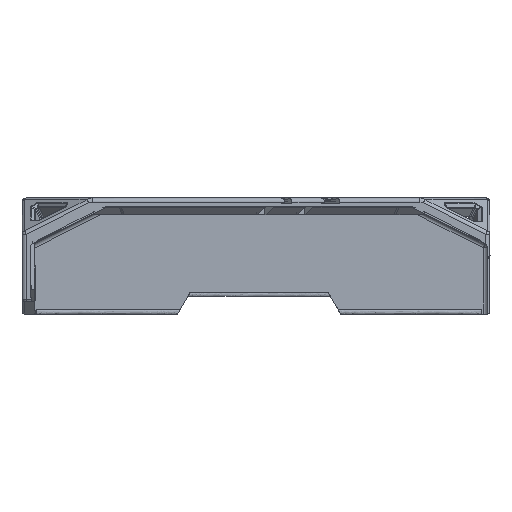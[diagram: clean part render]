
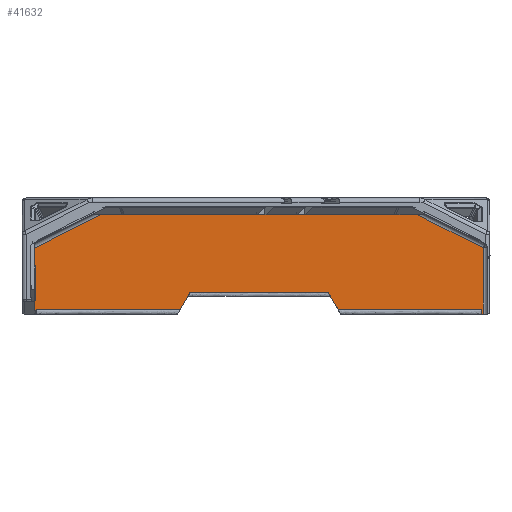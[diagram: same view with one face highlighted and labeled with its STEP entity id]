
A CAD part, left-side view. The second image highlights one B-rep face of the part: STEP entity #41632.
In plain terms, the highlighted planar face has unit normal (-1, 0, 0).
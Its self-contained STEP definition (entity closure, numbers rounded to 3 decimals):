
#26843=DIRECTION('',(0.,0.,1.));
#26844=VECTOR('',#26843,15.972);
#26845=CARTESIAN_POINT('',(256.7,-54.1,-26.));
#26846=LINE('',#26845,#26844);
#27484=CARTESIAN_POINT('',(256.7,8.879,1.6));
#27538=DIRECTION('',(0.,0.,1.));
#27539=VECTOR('',#27538,1.);
#27540=CARTESIAN_POINT('',(256.7,53.7,-26.));
#27541=LINE('',#27540,#27539);
#27542=DIRECTION('',(0.,1.,0.));
#27543=VECTOR('',#27542,0.5);
#27544=CARTESIAN_POINT('',(256.7,53.7,-26.));
#27545=LINE('',#27544,#27543);
#27546=DIRECTION('',(0.,0.894,-0.447));
#27547=VECTOR('',#27546,20.298);
#27548=CARTESIAN_POINT('',(256.7,36.045,-1.));
#27549=LINE('',#27548,#27547);
#27550=DIRECTION('',(0.,-1.,0.));
#27551=VECTOR('',#27550,19.292);
#27552=CARTESIAN_POINT('',(256.7,36.045,-1.));
#27553=LINE('',#27552,#27551);
#27554=DIRECTION('',(0.,0.,1.));
#27555=VECTOR('',#27554,0.9);
#27556=CARTESIAN_POINT('',(256.7,16.753,0.7));
#27557=LINE('',#27556,#27555);
#27558=DIRECTION('',(0.,-1.,0.));
#27559=VECTOR('',#27558,7.875);
#27560=CARTESIAN_POINT('',(256.7,16.753,1.6));
#27561=LINE('',#27560,#27559);
#27562=DIRECTION('',(0.,0.,1.));
#27563=VECTOR('',#27562,0.4);
#27564=CARTESIAN_POINT('',(256.7,8.879,1.2));
#27565=LINE('',#27564,#27563);
#27566=DIRECTION('',(0.,0.,-1.));
#27567=VECTOR('',#27566,2.2);
#27568=CARTESIAN_POINT('',(256.7,13.925,1.2));
#27569=LINE('',#27568,#27567);
#27570=DIRECTION('',(0.,-1.,0.));
#27571=VECTOR('',#27570,6.743);
#27572=CARTESIAN_POINT('',(256.7,13.925,-1.));
#27573=LINE('',#27572,#27571);
#27574=DIRECTION('',(0.,0.,1.));
#27575=VECTOR('',#27574,0.9);
#27576=CARTESIAN_POINT('',(256.7,7.182,0.7));
#27577=LINE('',#27576,#27575);
#27578=DIRECTION('',(0.,-1.,0.));
#27579=VECTOR('',#27578,42.053);
#27580=CARTESIAN_POINT('',(256.7,7.182,1.6));
#27581=LINE('',#27580,#27579);
#27582=DIRECTION('',(0.,0.,-1.));
#27583=VECTOR('',#27582,0.4);
#27584=CARTESIAN_POINT('',(256.7,-34.872,1.6));
#27585=LINE('',#27584,#27583);
#27586=DIRECTION('',(0.,0.,-1.));
#27587=VECTOR('',#27586,2.2);
#27588=CARTESIAN_POINT('',(256.7,4.736,1.2));
#27589=LINE('',#27588,#27587);
#27590=DIRECTION('',(0.,-1.,0.));
#27591=VECTOR('',#27590,40.781);
#27592=CARTESIAN_POINT('',(256.7,4.736,-1.));
#27593=LINE('',#27592,#27591);
#27594=DIRECTION('',(0.,0.894,0.447));
#27595=VECTOR('',#27594,20.186);
#27596=CARTESIAN_POINT('',(256.7,-54.1,-10.028));
#27597=LINE('',#27596,#27595);
#27598=DIRECTION('',(0.,1.,0.));
#27599=VECTOR('',#27598,0.5);
#27600=CARTESIAN_POINT('',(256.7,-54.1,-26.));
#27601=LINE('',#27600,#27599);
#27602=DIRECTION('',(0.,0.,1.));
#27603=VECTOR('',#27602,1.);
#27604=CARTESIAN_POINT('',(256.7,-53.6,-26.));
#27605=LINE('',#27604,#27603);
#27606=DIRECTION('',(0.,-0.5,-0.866));
#27607=VECTOR('',#27606,1.155);
#27608=CARTESIAN_POINT('',(256.7,-16.606,-20.708));
#27609=LINE('',#27608,#27607);
#27610=DIRECTION('',(0.,1.,0.));
#27611=VECTOR('',#27610,33.212);
#27612=CARTESIAN_POINT('',(256.7,-16.606,-20.708));
#27613=LINE('',#27612,#27611);
#27614=DIRECTION('',(0.,-0.5,0.866));
#27615=VECTOR('',#27614,1.155);
#27616=CARTESIAN_POINT('',(256.7,17.183,-21.708));
#27617=LINE('',#27616,#27615);
#27626=DIRECTION('',(0.,0.5,-0.866));
#27627=VECTOR('',#27626,3.801);
#27628=CARTESIAN_POINT('',(256.7,17.183,-21.708));
#27629=LINE('',#27628,#27627);
#27726=CARTESIAN_POINT('',(256.7,-19.085,-25.));
#27734=DIRECTION('',(0.,-1.,0.));
#27735=VECTOR('',#27734,34.515);
#27736=CARTESIAN_POINT('',(256.7,-19.085,-25.));
#27737=LINE('',#27736,#27735);
#27744=CARTESIAN_POINT('',(256.7,19.085,-25.));
#27746=DIRECTION('',(0.,-1.,0.));
#27747=VECTOR('',#27746,34.615);
#27748=CARTESIAN_POINT('',(256.7,53.7,-25.));
#27749=LINE('',#27748,#27747);
#27750=DIRECTION('',(0.,0.5,0.866));
#27751=VECTOR('',#27750,3.801);
#27752=CARTESIAN_POINT('',(256.7,-19.085,-25.));
#27753=LINE('',#27752,#27751);
#28249=DIRECTION('',(0.,0.,-1.));
#28250=VECTOR('',#28249,1.7);
#28251=CARTESIAN_POINT('',(256.7,7.182,0.7));
#28252=LINE('',#28251,#28250);
#28269=CARTESIAN_POINT('',(256.7,7.182,1.6));
#28349=DIRECTION('',(0.,1.,0.));
#28350=VECTOR('',#28349,5.046);
#28351=CARTESIAN_POINT('',(256.7,8.879,1.2));
#28352=LINE('',#28351,#28350);
#28520=DIRECTION('',(0.,1.,0.));
#28521=VECTOR('',#28520,39.608);
#28522=CARTESIAN_POINT('',(256.7,-34.872,1.2));
#28523=LINE('',#28522,#28521);
#30774=DIRECTION('',(0.,0.,-1.));
#30775=VECTOR('',#30774,1.7);
#30776=CARTESIAN_POINT('',(256.7,16.753,0.7));
#30777=LINE('',#30776,#30775);
#30924=CARTESIAN_POINT('',(256.7,16.753,-1.));
#30936=CARTESIAN_POINT('',(256.7,4.736,-1.));
#30948=CARTESIAN_POINT('',(256.7,7.182,-1.));
#30955=CARTESIAN_POINT('',(256.7,13.925,-1.));
#31051=DIRECTION('',(0.,0.,-1.));
#31052=VECTOR('',#31051,15.922);
#31053=CARTESIAN_POINT('',(256.7,54.2,-10.078));
#31054=LINE('',#31053,#31052);
#37065=CARTESIAN_POINT('',(256.7,-54.1,-26.));
#37066=VERTEX_POINT('',#37065);
#37103=CARTESIAN_POINT('',(256.7,36.045,-1.));
#37104=VERTEX_POINT('',#37103);
#37105=CARTESIAN_POINT('',(256.7,54.2,-10.078));
#37106=VERTEX_POINT('',#37105);
#37108=CARTESIAN_POINT('',(256.7,-54.1,-10.028));
#37110=VERTEX_POINT('',#37108);
#37115=CARTESIAN_POINT('',(256.7,-36.045,-1.));
#37116=VERTEX_POINT('',#37115);
#37125=CARTESIAN_POINT('',(256.7,54.2,-26.));
#37126=VERTEX_POINT('',#37125);
#37127=CARTESIAN_POINT('',(256.7,-53.6,-26.));
#37128=CARTESIAN_POINT('',(256.7,-53.6,-25.));
#37129=VERTEX_POINT('',#37127);
#37130=VERTEX_POINT('',#37128);
#37131=CARTESIAN_POINT('',(256.7,53.7,-26.));
#37132=CARTESIAN_POINT('',(256.7,53.7,-25.));
#37133=VERTEX_POINT('',#37131);
#37134=VERTEX_POINT('',#37132);
#37177=CARTESIAN_POINT('',(256.7,-34.872,1.2));
#37179=VERTEX_POINT('',#37177);
#37482=CARTESIAN_POINT('',(256.7,8.879,1.2));
#37483=VERTEX_POINT('',#37482);
#37686=VERTEX_POINT('',#30948);
#37687=VERTEX_POINT('',#30936);
#37688=VERTEX_POINT('',#30924);
#37689=VERTEX_POINT('',#30955);
#37690=CARTESIAN_POINT('',(256.7,4.736,1.2));
#37691=VERTEX_POINT('',#37690);
#37692=CARTESIAN_POINT('',(256.7,13.925,1.2));
#37693=VERTEX_POINT('',#37692);
#37694=CARTESIAN_POINT('',(256.7,7.182,0.7));
#37695=VERTEX_POINT('',#37694);
#37696=CARTESIAN_POINT('',(256.7,16.753,0.7));
#37697=VERTEX_POINT('',#37696);
#38691=VERTEX_POINT('',#28269);
#38695=CARTESIAN_POINT('',(256.7,-34.872,1.6));
#38696=VERTEX_POINT('',#38695);
#38702=VERTEX_POINT('',#27484);
#38703=CARTESIAN_POINT('',(256.7,16.753,1.6));
#38704=VERTEX_POINT('',#38703);
#38736=CARTESIAN_POINT('',(256.7,-17.183,-21.708));
#38737=CARTESIAN_POINT('',(256.7,17.183,-21.708));
#38738=VERTEX_POINT('',#38736);
#38739=VERTEX_POINT('',#38737);
#38740=CARTESIAN_POINT('',(256.7,-16.606,-20.708));
#38741=CARTESIAN_POINT('',(256.7,16.606,-20.708));
#38742=VERTEX_POINT('',#38740);
#38743=VERTEX_POINT('',#38741);
#38745=VERTEX_POINT('',#27744);
#38746=VERTEX_POINT('',#27726);
#41570=CARTESIAN_POINT('',(256.7,-35.,-1.));
#41571=DIRECTION('',(1.,0.,0.));
#41572=DIRECTION('',(0.,1.,0.));
#41573=AXIS2_PLACEMENT_3D('',#41570,#41571,#41572);
#41574=PLANE('',#41573);
#41576=ORIENTED_EDGE('',*,*,#41575,.T.);
#41578=ORIENTED_EDGE('',*,*,#41577,.F.);
#41580=ORIENTED_EDGE('',*,*,#41579,.F.);
#41582=ORIENTED_EDGE('',*,*,#41581,.T.);
#41584=ORIENTED_EDGE('',*,*,#41583,.F.);
#41586=ORIENTED_EDGE('',*,*,#41585,.F.);
#41588=ORIENTED_EDGE('',*,*,#41587,.T.);
#41590=ORIENTED_EDGE('',*,*,#41589,.F.);
#41591=ORIENTED_EDGE('',*,*,#41543,.T.);
#41592=ORIENTED_EDGE('',*,*,#41489,.T.);
#41593=ORIENTED_EDGE('',*,*,#41518,.F.);
#41595=ORIENTED_EDGE('',*,*,#41594,.T.);
#41597=ORIENTED_EDGE('',*,*,#41596,.T.);
#41599=ORIENTED_EDGE('',*,*,#41598,.T.);
#41601=ORIENTED_EDGE('',*,*,#41600,.F.);
#41603=ORIENTED_EDGE('',*,*,#41602,.T.);
#41605=ORIENTED_EDGE('',*,*,#41604,.T.);
#41607=ORIENTED_EDGE('',*,*,#41606,.T.);
#41609=ORIENTED_EDGE('',*,*,#41608,.T.);
#41611=ORIENTED_EDGE('',*,*,#41610,.T.);
#41613=ORIENTED_EDGE('',*,*,#41612,.T.);
#41614=ORIENTED_EDGE('',*,*,#40830,.F.);
#41615=ORIENTED_EDGE('',*,*,#40860,.F.);
#41617=ORIENTED_EDGE('',*,*,#41616,.T.);
#41619=ORIENTED_EDGE('',*,*,#41618,.T.);
#41621=ORIENTED_EDGE('',*,*,#41620,.F.);
#41623=ORIENTED_EDGE('',*,*,#41622,.T.);
#41625=ORIENTED_EDGE('',*,*,#41624,.F.);
#41627=ORIENTED_EDGE('',*,*,#41626,.T.);
#41629=ORIENTED_EDGE('',*,*,#41628,.F.);
#41630=EDGE_LOOP('',(#41576,#41578,#41580,#41582,#41584,#41586,#41588,#41590,
#41591,#41592,#41593,#41595,#41597,#41599,#41601,#41603,#41605,#41607,#41609,
#41611,#41613,#41614,#41615,#41617,#41619,#41621,#41623,#41625,#41627,#41629));
#41631=FACE_OUTER_BOUND('',#41630,.F.);
#41632=ADVANCED_FACE('',(#41631),#41574,.F.);
#40830=EDGE_CURVE('',#37110,#37116,#27597,.T.);
#40860=EDGE_CURVE('',#37066,#37110,#26846,.T.);
#41489=EDGE_CURVE('',#38704,#38702,#27561,.T.);
#41518=EDGE_CURVE('',#37483,#38702,#27565,.T.);
#41543=EDGE_CURVE('',#37697,#38704,#27557,.T.);
#41575=EDGE_CURVE('',#38739,#38745,#27629,.T.);
#41577=EDGE_CURVE('',#37134,#38745,#27749,.T.);
#41579=EDGE_CURVE('',#37133,#37134,#27541,.T.);
#41581=EDGE_CURVE('',#37133,#37126,#27545,.T.);
#41583=EDGE_CURVE('',#37106,#37126,#31054,.T.);
#41585=EDGE_CURVE('',#37104,#37106,#27549,.T.);
#41587=EDGE_CURVE('',#37104,#37688,#27553,.T.);
#41589=EDGE_CURVE('',#37697,#37688,#30777,.T.);
#41594=EDGE_CURVE('',#37483,#37693,#28352,.T.);
#41596=EDGE_CURVE('',#37693,#37689,#27569,.T.);
#41598=EDGE_CURVE('',#37689,#37686,#27573,.T.);
#41600=EDGE_CURVE('',#37695,#37686,#28252,.T.);
#41602=EDGE_CURVE('',#37695,#38691,#27577,.T.);
#41604=EDGE_CURVE('',#38691,#38696,#27581,.T.);
#41606=EDGE_CURVE('',#38696,#37179,#27585,.T.);
#41608=EDGE_CURVE('',#37179,#37691,#28523,.T.);
#41610=EDGE_CURVE('',#37691,#37687,#27589,.T.);
#41612=EDGE_CURVE('',#37687,#37116,#27593,.T.);
#41616=EDGE_CURVE('',#37066,#37129,#27601,.T.);
#41618=EDGE_CURVE('',#37129,#37130,#27605,.T.);
#41620=EDGE_CURVE('',#38746,#37130,#27737,.T.);
#41622=EDGE_CURVE('',#38746,#38738,#27753,.T.);
#41624=EDGE_CURVE('',#38742,#38738,#27609,.T.);
#41626=EDGE_CURVE('',#38742,#38743,#27613,.T.);
#41628=EDGE_CURVE('',#38739,#38743,#27617,.T.);
